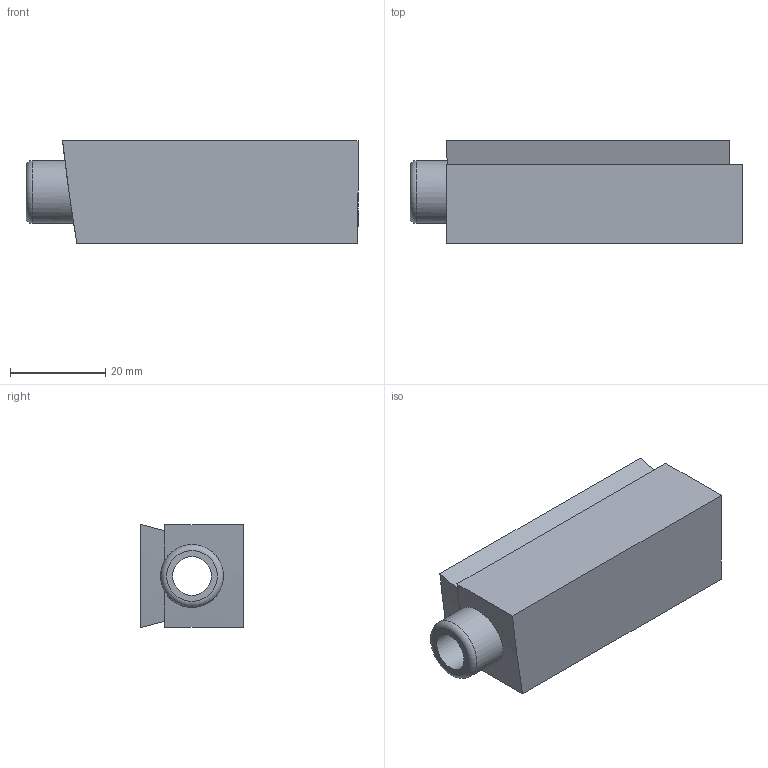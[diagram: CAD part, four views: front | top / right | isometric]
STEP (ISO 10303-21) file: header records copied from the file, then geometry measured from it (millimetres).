
FILE_DESCRIPTION(/* description */ (''),/* implementation_level */ '2;1');
FILE_NAME(/* name */ 'C:\Users\garre\3D Objects\front inside croc axle holder.stp',/* time_stamp */ '2021-09-03T20:52:58-04:00',/* author */ ('garre'),/* organization */ (''),/* preprocessor_version */ 'ST-DEVELOPER v18.1',/* originating_system */ 'Autodesk Inventor 2022',/* authorisation */ '');
FILE_SCHEMA (('AUTOMOTIVE_DESIGN { 1 0 10303 214 3 1 1 }'));
Length unit declared in the file: inch
Products named in the file (1): front inside croc axle holder
Bounding box: 69.85 x 21.59 x 21.77 mm (x, y, z)
Volume: 25299.3 mm3; surface area: 8352.2 mm2
Topology: 1 solids, 1 shells, 15 faces, 37 edges, 24 vertices
Faces by surface type: plane 10, cylinder 2, bspline 2, torus 1
Full cylindrical faces by diameter (mm): 8.128 x1, 13.208 x1
Entity records: 569 total; most frequent: CARTESIAN_POINT 178, ORIENTED_EDGE 74, DIRECTION 66, EDGE_CURVE 37, VERTEX_POINT 24, AXIS2_PLACEMENT_3D 23, LINE 20, VECTOR 20
